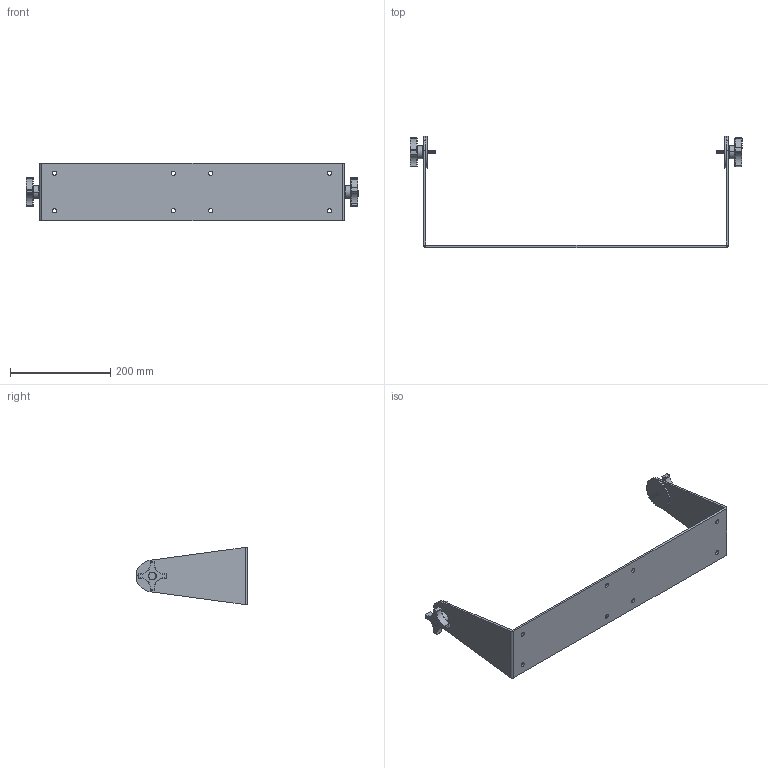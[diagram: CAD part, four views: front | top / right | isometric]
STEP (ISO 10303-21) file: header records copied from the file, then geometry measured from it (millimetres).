
FILE_DESCRIPTION (( 'STEP AP214' ), '1' );
FILE_NAME ('Wall Yoke for 23 inch Universal Mount Monitor, YW23.STEP', '2017-07-18T14:11:20', ( '' ), ( '' ), 'SwSTEP 2.0', 'SolidWorks 2017', '' );
FILE_SCHEMA (( 'AUTOMOTIVE_DESIGN' ));
Length unit declared in the file: inch
Products named in the file (5): Wall Yoke for 23 inch Universal Mount Monitor, YW23; Bushing, 30501; Knob, 30053; Rubber Washer, 10177; All Wall Yoke Configurations, YWxx_YW23
Assembly tree (7 placements, depth 2):
  Wall Yoke for 23 inch Universal Mount Monitor, YW23
    All Wall Yoke Configurations, YWxx_YW23
    Rubber Washer, 10177  x2
    Knob, 30053  x2
    Bushing, 30501  x2
Bounding box: 663.6 x 222.25 x 114.3 mm (x, y, z)
Volume: 570371.4 mm3; surface area: 250459.6 mm2
Topology: 7 solids, 7 shells, 568 faces, 1228 edges, 666 vertices
Faces by surface type: cylinder 262, cone 176, torus 48, sphere 40, plane 38, bspline 4
Entity records: 10971 total; most frequent: CARTESIAN_POINT 4020, DIRECTION 1495, ORIENTED_EDGE 1340, EDGE_CURVE 670, AXIS2_PLACEMENT_3D 612, VERTEX_POINT 371, EDGE_LOOP 339, ADVANCED_FACE 311
